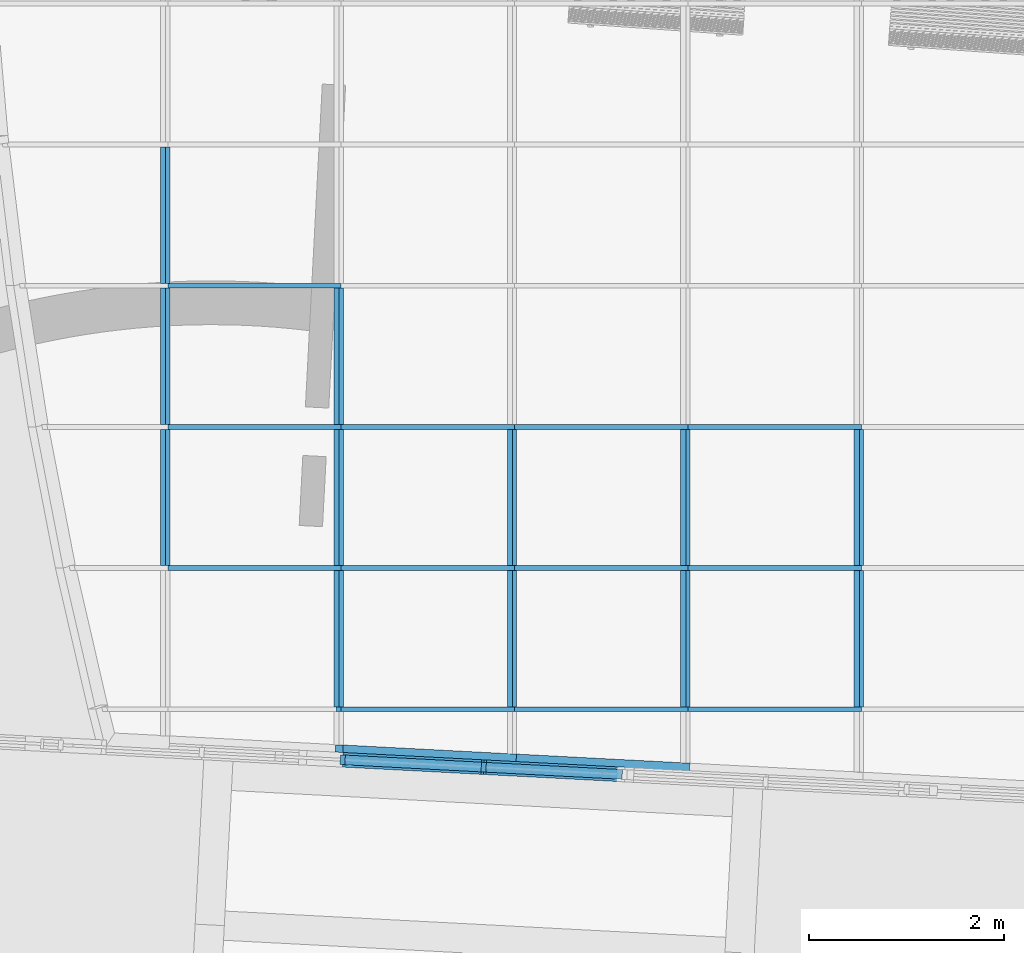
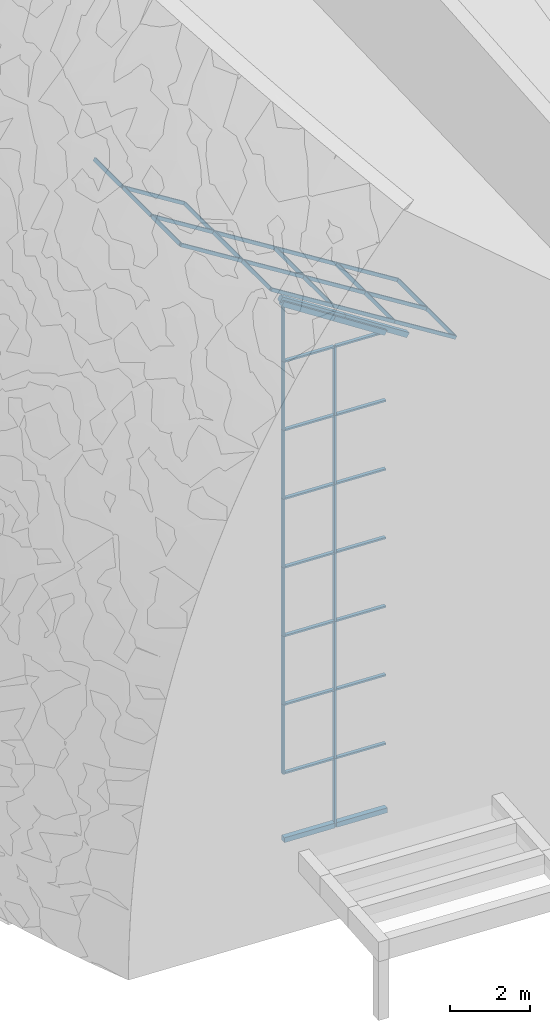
# One storey, part 6 of 82: 58 members, 1 element without a shape of its own.
"""IFC2X3 building model written with IfcOpenShell, lengths in millimetres."""

from ifc_helpers import new_model, entity, si_unit, converted_unit, derived_unit, direction, frame, frame_2d, origin, origin_2d_with_axis, place, context, subcontext, project, spatial, rectangle, extrude, clip, halfspace, source, transform, mapped, material, type_object, type_shapes, element, aggregate, save


model = new_model("IFC2X3")

# Units and contexts
model_context = context("Model", 3, precision=0.01, world=origin(), true_north=direction((6.12303176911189e-17, 1.0)))
body_context = subcontext(model_context, "Body", "Model", "MODEL_VIEW")
ifc_project = project(units=[si_unit("LENGTHUNIT", "METRE", prefix="MILLI"), si_unit("AREAUNIT", "SQUARE_METRE"), si_unit("VOLUMEUNIT", "CUBIC_METRE"), converted_unit("PLANEANGLEUNIT", "DEGREE", entity("IfcRatioMeasure", 0.0174532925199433), si_unit("PLANEANGLEUNIT", "RADIAN"), dimensions=[0, 0, 0, 0, 0, 0, 0]), si_unit("MASSUNIT", "GRAM", prefix="KILO"), derived_unit("MASSDENSITYUNIT", [(si_unit("MASSUNIT", "GRAM", prefix="KILO"), 1), (si_unit("LENGTHUNIT", "METRE"), -3)]), si_unit("TIMEUNIT", "SECOND"), si_unit("FREQUENCYUNIT", "HERTZ"), si_unit("THERMODYNAMICTEMPERATUREUNIT", "DEGREE_CELSIUS"), derived_unit("THERMALTRANSMITTANCEUNIT", [(si_unit("MASSUNIT", "GRAM", prefix="KILO"), 1), (si_unit("THERMODYNAMICTEMPERATUREUNIT", "KELVIN"), -1), (si_unit("TIMEUNIT", "SECOND"), -3)]), derived_unit("VOLUMETRICFLOWRATEUNIT", [(si_unit("LENGTHUNIT", "METRE"), 3), (si_unit("TIMEUNIT", "SECOND"), -1)]), si_unit("ELECTRICCURRENTUNIT", "AMPERE"), si_unit("ELECTRICVOLTAGEUNIT", "VOLT"), si_unit("POWERUNIT", "WATT"), si_unit("FORCEUNIT", "NEWTON", prefix="KILO"), si_unit("ILLUMINANCEUNIT", "LUX"), si_unit("LUMINOUSFLUXUNIT", "LUMEN"), si_unit("LUMINOUSINTENSITYUNIT", "CANDELA"), derived_unit("USERDEFINED", [(si_unit("MASSUNIT", "GRAM", prefix="KILO"), -1), (si_unit("LENGTHUNIT", "METRE"), -2), (si_unit("TIMEUNIT", "SECOND"), 3), (si_unit("LUMINOUSFLUXUNIT", "LUMEN"), 1)]), derived_unit("LINEARVELOCITYUNIT", [(si_unit("LENGTHUNIT", "METRE"), 1), (si_unit("TIMEUNIT", "SECOND"), -1)]), si_unit("PRESSUREUNIT", "PASCAL"), derived_unit("USERDEFINED", [(si_unit("LENGTHUNIT", "METRE"), -2), (si_unit("MASSUNIT", "GRAM", prefix="KILO"), 1), (si_unit("TIMEUNIT", "SECOND"), -2)])], contexts=[model_context])

# Site, building, storey
site_placement = place(None, origin())
site = spatial("IfcSite", under=ifc_project, at=site_placement, Name="表面", CompositionType="ELEMENT")
building_placement = place(site_placement, origin())
building = spatial("IfcBuilding", under=site, at=building_placement, CompositionType="ELEMENT")
storey_placement = place(building_placement, origin())
storey = spatial("IfcBuildingStorey", under=building, at=storey_placement, Name="1F", CompositionType="ELEMENT", Elevation=0.0)

# Curtain wall, members
curtain_wall_type = type_object("IfcCurtainWallType", Name="幕墙系统:1450 x 2100mm", PredefinedType="NOTDEFINED")
curtain_wall_placement = place(storey_placement, origin())
curtain_wall = element("IfcCurtainWall", 1, at=curtain_wall_placement, inside=storey, type_object=curtain_wall_type, Name="幕墙系统:1450 x 2100mm", ObjectType="幕墙系统:1450 x 2100mm")
ifc_material_1 = material(Name="金属 - 铝")
member_type_1 = type_object("IfcMemberType", Name="50 x 100mm", PredefinedType="MEMBER")
shared_shape_1 = source(origin(), body_context, "Body", "SweptSolid", [
    extrude(rectangle(XDim=100.0, YDim=50.0, at=origin_2d_with_axis()), frame((0.0, 0.0, -1400.0), z_axis=(0.0, 0.0, 1.0), x_axis=(0.0, -1.0, 0.0)), (0.0, 0.0, 1.0), 1400.0),
])
type_shapes(member_type_1, [shared_shape_1])
placement_1 = place(building_placement, frame((0.0, 0.0, 9000.0)))
member_1_placement = place(placement_1, frame((-21700.0006149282, -25013.9031535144, 4255.86225190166), z_axis=(0.0, 1.0, 0.0), x_axis=(-0.848048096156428, 0.0, 0.529919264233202)))
member_1 = element("IfcMember", 2, at=member_1_placement, type_object=member_type_1, material=ifc_material_1, Name="矩形竖梃:50 x 100mm", ObjectType="50 x 100mm", context=body_context, shape_type="MappedRepresentation", body=[
    mapped(shared_shape_1, transform((0.0, 0.0, 0.0), scale=1.0)),
])
member_2_placement = place(placement_1, frame((-21700.0006149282, -26463.9031535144, 4255.86225190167), z_axis=(0.0, 1.0, 0.0), x_axis=(-0.848048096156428, 0.0, 0.529919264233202)))
member_2 = element("IfcMember", 3, at=member_2_placement, type_object=member_type_1, material=ifc_material_1, Name="矩形竖梃:50 x 100mm", ObjectType="50 x 100mm", context=body_context, shape_type="MappedRepresentation", body=[
    mapped(shared_shape_1, transform((0.0, 0.0, 0.0), scale=1.0)),
])
member_3_placement = place(placement_1, frame((-23480.9016168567, -25013.9031535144, 5368.69270679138), z_axis=(0.0, 1.0, 0.0), x_axis=(-0.848048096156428, 0.0, 0.529919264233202)))
member_3 = element("IfcMember", 4, at=member_3_placement, type_object=member_type_1, material=ifc_material_1, Name="矩形竖梃:50 x 100mm", ObjectType="50 x 100mm", context=body_context, shape_type="MappedRepresentation", body=[
    mapped(shared_shape_1, transform((0.0, 0.0, 0.0), scale=1.0)),
])
member_4_placement = place(placement_1, frame((-23480.9016168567, -26463.9031535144, 5368.69270679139), z_axis=(0.0, 1.0, 0.0), x_axis=(-0.848048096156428, 0.0, 0.529919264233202)))
member_4 = element("IfcMember", 5, at=member_4_placement, type_object=member_type_1, material=ifc_material_1, Name="矩形竖梃:50 x 100mm", ObjectType="50 x 100mm", context=body_context, shape_type="MappedRepresentation", body=[
    mapped(shared_shape_1, transform((0.0, 0.0, 0.0), scale=1.0)),
])
member_5_placement = place(placement_1, frame((-25261.8026187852, -25013.9031535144, 6481.52316168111), z_axis=(0.0, 1.0, 0.0), x_axis=(-0.848048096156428, 0.0, 0.529919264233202)))
member_5 = element("IfcMember", 6, at=member_5_placement, type_object=member_type_1, material=ifc_material_1, Name="矩形竖梃:50 x 100mm", ObjectType="50 x 100mm", context=body_context, shape_type="MappedRepresentation", body=[
    mapped(shared_shape_1, transform((0.0, 0.0, 0.0), scale=1.0)),
])
member_6_placement = place(placement_1, frame((-25261.8026187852, -26463.9031535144, 6481.52316168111), z_axis=(0.0, 1.0, 0.0), x_axis=(-0.848048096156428, 0.0, 0.529919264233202)))
member_6 = element("IfcMember", 7, at=member_6_placement, type_object=member_type_1, material=ifc_material_1, Name="矩形竖梃:50 x 100mm", ObjectType="50 x 100mm", context=body_context, shape_type="MappedRepresentation", body=[
    mapped(shared_shape_1, transform((0.0, 0.0, 0.0), scale=1.0)),
])
member_7_placement = place(placement_1, frame((-27042.7036207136, -23563.9031535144, 7594.35361657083), z_axis=(0.0, 1.0, 0.0), x_axis=(-0.848048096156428, 0.0, 0.529919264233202)))
member_7 = element("IfcMember", 8, at=member_7_placement, type_object=member_type_1, material=ifc_material_1, Name="矩形竖梃:50 x 100mm", ObjectType="50 x 100mm", context=body_context, shape_type="MappedRepresentation", body=[
    mapped(shared_shape_1, transform((0.0, 0.0, 0.0), scale=1.0)),
])
member_8_placement = place(placement_1, frame((-27042.7036207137, -25013.9031535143, 7594.35361657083), z_axis=(0.0, 1.0, 0.0), x_axis=(-0.848048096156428, 0.0, 0.529919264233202)))
member_8 = element("IfcMember", 9, at=member_8_placement, type_object=member_type_1, material=ifc_material_1, Name="矩形竖梃:50 x 100mm", ObjectType="50 x 100mm", context=body_context, shape_type="MappedRepresentation", body=[
    mapped(shared_shape_1, transform((0.0, 0.0, 0.0), scale=1.0)),
])
member_9_placement = place(placement_1, frame((-27042.7036207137, -26463.9031535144, 7594.35361657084), z_axis=(0.0, 1.0, 0.0), x_axis=(-0.848048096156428, 0.0, 0.529919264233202)))
member_9 = element("IfcMember", 10, at=member_9_placement, type_object=member_type_1, material=ifc_material_1, Name="矩形竖梃:50 x 100mm", ObjectType="50 x 100mm", context=body_context, shape_type="MappedRepresentation", body=[
    mapped(shared_shape_1, transform((0.0, 0.0, 0.0), scale=1.0)),
])
member_10_placement = place(placement_1, frame((-28823.6046226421, -22113.9031535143, 8707.18407146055), z_axis=(0.0, 1.0, 0.0), x_axis=(-0.848048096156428, 0.0, 0.529919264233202)))
member_10 = element("IfcMember", 11, at=member_10_placement, type_object=member_type_1, material=ifc_material_1, Name="矩形竖梃:50 x 100mm", ObjectType="50 x 100mm", context=body_context, shape_type="MappedRepresentation", body=[
    mapped(shared_shape_1, transform((0.0, 0.0, 0.0), scale=1.0)),
])
member_11_placement = place(placement_1, frame((-28823.6046226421, -23563.9031535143, 8707.18407146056), z_axis=(0.0, 1.0, 0.0), x_axis=(-0.848048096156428, 0.0, 0.529919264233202)))
member_11 = element("IfcMember", 12, at=member_11_placement, type_object=member_type_1, material=ifc_material_1, Name="矩形竖梃:50 x 100mm", ObjectType="50 x 100mm", context=body_context, shape_type="MappedRepresentation", body=[
    mapped(shared_shape_1, transform((0.0, 0.0, 0.0), scale=1.0)),
])
member_12_placement = place(placement_1, frame((-28823.6046226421, -25013.9031535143, 8707.18407146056), z_axis=(0.0, 1.0, 0.0), x_axis=(-0.848048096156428, 0.0, 0.529919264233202)))
member_12 = element("IfcMember", 13, at=member_12_placement, type_object=member_type_1, material=ifc_material_1, Name="矩形竖梃:50 x 100mm", ObjectType="50 x 100mm", context=body_context, shape_type="MappedRepresentation", body=[
    mapped(shared_shape_1, transform((0.0, 0.0, 0.0), scale=1.0)),
])
member_13_placement = place(storey_placement, frame((-24129.6174691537, -28558.5461125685, 2100.0), z_axis=(0.998629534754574, -0.052335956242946, 0.0), x_axis=(0.0, 0.0, 1.0)))
member_13 = element("IfcMember", 14, at=member_13_placement, type_object=member_type_1, material=ifc_material_1, Name="矩形竖梃:50 x 100mm", ObjectType="50 x 100mm", context=body_context, shape_type="MappedRepresentation", body=[
    mapped(shared_shape_1, transform((0.0, 0.0, 0.0), scale=1.0)),
])
member_14_placement = place(storey_placement, frame((-25577.6302945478, -28482.6589760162, 2100.0), z_axis=(0.998629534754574, -0.0523359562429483, 0.0), x_axis=(0.0, 0.0, 1.0)))
member_14 = element("IfcMember", 15, at=member_14_placement, type_object=member_type_1, material=ifc_material_1, Name="矩形竖梃:50 x 100mm", ObjectType="50 x 100mm", context=body_context, shape_type="MappedRepresentation", body=[
    mapped(shared_shape_1, transform((0.0, 0.0, 0.0), scale=1.0)),
])
placement_2 = place(building_placement, frame((0.0, 0.0, 3000.0)))
member_15_placement = place(placement_2, frame((-24129.6174691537, -28558.5461125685, 1200.0), z_axis=(0.998629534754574, -0.052335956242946, 0.0), x_axis=(0.0, 0.0, 1.0)))
member_15 = element("IfcMember", 16, at=member_15_placement, type_object=member_type_1, material=ifc_material_1, Name="矩形竖梃:50 x 100mm", ObjectType="50 x 100mm", context=body_context, shape_type="MappedRepresentation", body=[
    mapped(shared_shape_1, transform((0.0, 0.0, 0.0), scale=1.0)),
])
member_16_placement = place(placement_2, frame((-25577.6302945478, -28482.6589760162, 1200.0), z_axis=(0.998629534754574, -0.0523359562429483, 0.0), x_axis=(0.0, 0.0, 1.0)))
member_16 = element("IfcMember", 17, at=member_16_placement, type_object=member_type_1, material=ifc_material_1, Name="矩形竖梃:50 x 100mm", ObjectType="50 x 100mm", context=body_context, shape_type="MappedRepresentation", body=[
    mapped(shared_shape_1, transform((0.0, 0.0, 0.0), scale=1.0)),
])
placement_3 = place(building_placement, frame((0.0, 0.0, 6000.0)))
member_17_placement = place(placement_3, frame((-24129.6174691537, -28558.5461125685, 300.0), z_axis=(0.998629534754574, -0.0523359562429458, 0.0), x_axis=(0.0, 0.0, 1.0)))
member_17 = element("IfcMember", 18, at=member_17_placement, type_object=member_type_1, material=ifc_material_1, Name="矩形竖梃:50 x 100mm", ObjectType="50 x 100mm", context=body_context, shape_type="MappedRepresentation", body=[
    mapped(shared_shape_1, transform((0.0, 0.0, 0.0), scale=1.0)),
])
member_18_placement = place(placement_3, frame((-25577.6302945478, -28482.6589760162, 300.0), z_axis=(0.998629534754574, -0.0523359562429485, 0.0), x_axis=(0.0, 0.0, 1.0)))
member_18 = element("IfcMember", 19, at=member_18_placement, type_object=member_type_1, material=ifc_material_1, Name="矩形竖梃:50 x 100mm", ObjectType="50 x 100mm", context=body_context, shape_type="MappedRepresentation", body=[
    mapped(shared_shape_1, transform((0.0, 0.0, 0.0), scale=1.0)),
])
member_19_placement = place(placement_3, frame((-24129.6174691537, -28558.5461125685, 2400.0), z_axis=(0.998629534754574, -0.0523359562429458, 0.0), x_axis=(0.0, 0.0, 1.0)))
member_19 = element("IfcMember", 20, at=member_19_placement, type_object=member_type_1, material=ifc_material_1, Name="矩形竖梃:50 x 100mm", ObjectType="50 x 100mm", context=body_context, shape_type="MappedRepresentation", body=[
    mapped(shared_shape_1, transform((0.0, 0.0, 0.0), scale=1.0)),
])
member_20_placement = place(placement_3, frame((-25577.6302945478, -28482.6589760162, 2400.0), z_axis=(0.998629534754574, -0.0523359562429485, 0.0), x_axis=(0.0, 0.0, 1.0)))
member_20 = element("IfcMember", 21, at=member_20_placement, type_object=member_type_1, material=ifc_material_1, Name="矩形竖梃:50 x 100mm", ObjectType="50 x 100mm", context=body_context, shape_type="MappedRepresentation", body=[
    mapped(shared_shape_1, transform((0.0, 0.0, 0.0), scale=1.0)),
])
member_21_placement = place(placement_1, frame((-24129.6174691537, -28558.5461125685, 1500.0), z_axis=(0.998629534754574, -0.0523359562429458, 0.0), x_axis=(0.0, 0.0, 1.0)))
member_21 = element("IfcMember", 22, at=member_21_placement, type_object=member_type_1, material=ifc_material_1, Name="矩形竖梃:50 x 100mm", ObjectType="50 x 100mm", context=body_context, shape_type="MappedRepresentation", body=[
    mapped(shared_shape_1, transform((0.0, 0.0, 0.0), scale=1.0)),
])
member_22_placement = place(placement_1, frame((-25577.6302945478, -28482.6589760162, 1500.0), z_axis=(0.998629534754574, -0.0523359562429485, 0.0), x_axis=(0.0, 0.0, 1.0)))
member_22 = element("IfcMember", 23, at=member_22_placement, type_object=member_type_1, material=ifc_material_1, Name="矩形竖梃:50 x 100mm", ObjectType="50 x 100mm", context=body_context, shape_type="MappedRepresentation", body=[
    mapped(shared_shape_1, transform((0.0, 0.0, 0.0), scale=1.0)),
])
member_23_placement = place(placement_1, frame((-24129.6174691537, -28558.5461125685, 3600.0), z_axis=(0.998629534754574, -0.0523359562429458, 0.0), x_axis=(0.0, 0.0, 1.0)))
member_23 = element("IfcMember", 24, at=member_23_placement, type_object=member_type_1, material=ifc_material_1, Name="矩形竖梃:50 x 100mm", ObjectType="50 x 100mm", context=body_context, shape_type="MappedRepresentation", body=[
    mapped(shared_shape_1, transform((0.0, 0.0, 0.0), scale=1.0)),
])
member_24_placement = place(placement_1, frame((-25577.6302945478, -28482.6589760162, 3600.0), z_axis=(0.998629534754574, -0.0523359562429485, 0.0), x_axis=(0.0, 0.0, 1.0)))
member_24 = element("IfcMember", 25, at=member_24_placement, type_object=member_type_1, material=ifc_material_1, Name="矩形竖梃:50 x 100mm", ObjectType="50 x 100mm", context=body_context, shape_type="MappedRepresentation", body=[
    mapped(shared_shape_1, transform((0.0, 0.0, 0.0), scale=1.0)),
])
member_25_placement = place(placement_1, frame((-24129.6174691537, -28558.5461125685, 5700.0), z_axis=(0.998629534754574, -0.0523359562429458, 0.0), x_axis=(0.0, 0.0, 1.0)))
member_25 = element("IfcMember", 26, at=member_25_placement, type_object=member_type_1, material=ifc_material_1, Name="矩形竖梃:50 x 100mm", ObjectType="50 x 100mm", context=body_context, shape_type="MappedRepresentation", body=[
    mapped(shared_shape_1, transform((0.0, 0.0, 0.0), scale=1.0)),
])
member_26_placement = place(placement_1, frame((-25577.6302945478, -28482.6589760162, 5700.0), z_axis=(0.998629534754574, -0.0523359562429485, 0.0), x_axis=(0.0, 0.0, 1.0)))
member_26 = element("IfcMember", 27, at=member_26_placement, type_object=member_type_1, material=ifc_material_1, Name="矩形竖梃:50 x 100mm", ObjectType="50 x 100mm", context=body_context, shape_type="MappedRepresentation", body=[
    mapped(shared_shape_1, transform((0.0, 0.0, 0.0), scale=1.0)),
])
member_type_2 = type_object("IfcMemberType", Name="50 x 100mm", PredefinedType="MEMBER")
shared_shape_2 = source(origin(), body_context, "Body", "SweptSolid", [
    extrude(rectangle(XDim=100.0, YDim=50.0, at=origin_2d_with_axis()), frame((0.0, 0.0, -2100.0), z_axis=(0.0, 0.0, 1.0), x_axis=(0.0, -1.0, 0.0)), (0.0, 0.0, 1.0), 2100.0),
])
type_shapes(member_type_2, [shared_shape_2])
member_27_placement = place(storey_placement, frame((-25552.6645561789, -28483.9673749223, 2100.0), z_axis=(0.0, 0.0, 1.0), x_axis=(-0.998629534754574, 0.0523359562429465, 0.0)))
member_27 = element("IfcMember", 28, at=member_27_placement, type_object=member_type_2, material=ifc_material_1, Name="矩形竖梃:50 x 100mm", ObjectType="50 x 100mm", context=body_context, shape_type="MappedRepresentation", body=[
    mapped(shared_shape_2, transform((0.0, 0.0, 0.0), scale=1.0)),
])
member_type_3 = type_object("IfcMemberType", Name="50 x 100mm", PredefinedType="MEMBER")
shared_shape_3 = source(origin(), body_context, "Body", "SweptSolid", [
    extrude(rectangle(XDim=100.0, YDim=50.0, at=origin_2d_with_axis()), frame((0.0, 0.0, -2100.0), z_axis=(0.0, 0.0, 1.0), x_axis=(0.0, -1.0, 0.0)), (0.0, 0.0, 1.0), 2100.0),
])
type_shapes(member_type_3, [shared_shape_3])
member_28_placement = place(placement_1, frame((-23480.9016168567, -24988.9031535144, 5368.69270679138), z_axis=(-0.848048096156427, 0.0, 0.529919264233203), x_axis=(0.0, -1.0, 0.0)))
member_28 = element("IfcMember", 29, at=member_28_placement, type_object=member_type_3, material=ifc_material_1, Name="矩形竖梃:50 x 100mm", ObjectType="50 x 100mm", context=body_context, shape_type="MappedRepresentation", body=[
    mapped(shared_shape_3, transform((0.0, 0.0, 0.0), scale=1.0)),
])
member_29_placement = place(placement_1, frame((-23480.9016168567, -26438.9031535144, 5368.69270679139), z_axis=(-0.848048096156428, 0.0, 0.529919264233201), x_axis=(0.0, -1.0, 0.0)))
member_29 = element("IfcMember", 30, at=member_29_placement, type_object=member_type_3, material=ifc_material_1, Name="矩形竖梃:50 x 100mm", ObjectType="50 x 100mm", context=body_context, shape_type="MappedRepresentation", body=[
    mapped(shared_shape_3, transform((0.0, 0.0, 0.0), scale=1.0)),
])
member_30_placement = place(placement_1, frame((-23480.9016168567, -27888.9031535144, 5368.69270679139), z_axis=(-0.848048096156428, 0.0, 0.529919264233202), x_axis=(0.0, -1.0, 0.0)))
member_30 = element("IfcMember", 31, at=member_30_placement, type_object=member_type_3, material=ifc_material_1, Name="矩形竖梃:50 x 100mm", ObjectType="50 x 100mm", context=body_context, shape_type="MappedRepresentation", body=[
    mapped(shared_shape_3, transform((0.0, 0.0, 0.0), scale=1.0)),
])
member_31_placement = place(placement_1, frame((-25261.8026187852, -24988.9031535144, 6481.52316168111), z_axis=(-0.848048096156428, 0.0, 0.529919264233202), x_axis=(0.0, -1.0, 0.0)))
member_31 = element("IfcMember", 32, at=member_31_placement, type_object=member_type_3, material=ifc_material_1, Name="矩形竖梃:50 x 100mm", ObjectType="50 x 100mm", context=body_context, shape_type="MappedRepresentation", body=[
    mapped(shared_shape_3, transform((0.0, 0.0, 0.0), scale=1.0)),
])
member_32_placement = place(placement_1, frame((-25261.8026187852, -26438.9031535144, 6481.52316168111), z_axis=(-0.848048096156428, 0.0, 0.529919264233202), x_axis=(0.0, -1.0, 0.0)))
member_32 = element("IfcMember", 33, at=member_32_placement, type_object=member_type_3, material=ifc_material_1, Name="矩形竖梃:50 x 100mm", ObjectType="50 x 100mm", context=body_context, shape_type="MappedRepresentation", body=[
    mapped(shared_shape_3, transform((0.0, 0.0, 0.0), scale=1.0)),
])
member_33_placement = place(placement_1, frame((-25261.8026187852, -27888.9031535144, 6481.52316168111), z_axis=(-0.848048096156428, 0.0, 0.529919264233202), x_axis=(0.0, -1.0, 0.0)))
member_33 = element("IfcMember", 34, at=member_33_placement, type_object=member_type_3, material=ifc_material_1, Name="矩形竖梃:50 x 100mm", ObjectType="50 x 100mm", context=body_context, shape_type="MappedRepresentation", body=[
    mapped(shared_shape_3, transform((0.0, 0.0, 0.0), scale=1.0)),
])
member_34_placement = place(placement_1, frame((-27042.7036207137, -24988.9031535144, 7594.35361657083), z_axis=(-0.848048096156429, 0.0, 0.529919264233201), x_axis=(0.0, -1.0, 0.0)))
member_34 = element("IfcMember", 35, at=member_34_placement, type_object=member_type_3, material=ifc_material_1, Name="矩形竖梃:50 x 100mm", ObjectType="50 x 100mm", context=body_context, shape_type="MappedRepresentation", body=[
    mapped(shared_shape_3, transform((0.0, 0.0, 0.0), scale=1.0)),
])
member_35_placement = place(placement_1, frame((-27042.7036207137, -26438.9031535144, 7594.35361657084), z_axis=(-0.848048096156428, 0.0, 0.529919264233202), x_axis=(0.0, -1.0, 0.0)))
member_35 = element("IfcMember", 36, at=member_35_placement, type_object=member_type_3, material=ifc_material_1, Name="矩形竖梃:50 x 100mm", ObjectType="50 x 100mm", context=body_context, shape_type="MappedRepresentation", body=[
    mapped(shared_shape_3, transform((0.0, 0.0, 0.0), scale=1.0)),
])
member_36_placement = place(placement_1, frame((-27042.7036207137, -27888.9031535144, 7594.35361657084), z_axis=(-0.848048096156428, 0.0, 0.529919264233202), x_axis=(0.0, -1.0, 0.0)))
member_36 = element("IfcMember", 37, at=member_36_placement, type_object=member_type_3, material=ifc_material_1, Name="矩形竖梃:50 x 100mm", ObjectType="50 x 100mm", context=body_context, shape_type="MappedRepresentation", body=[
    mapped(shared_shape_3, transform((0.0, 0.0, 0.0), scale=1.0)),
])
member_37_placement = place(placement_1, frame((-28823.6046226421, -23538.9031535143, 8707.18407146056), z_axis=(-0.848048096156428, 0.0, 0.529919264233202), x_axis=(0.0, -1.0, 0.0)))
member_37 = element("IfcMember", 38, at=member_37_placement, type_object=member_type_3, material=ifc_material_1, Name="矩形竖梃:50 x 100mm", ObjectType="50 x 100mm", context=body_context, shape_type="MappedRepresentation", body=[
    mapped(shared_shape_3, transform((0.0, 0.0, 0.0), scale=1.0)),
])
member_38_placement = place(placement_1, frame((-28823.6046226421, -24988.9031535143, 8707.18407146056), z_axis=(-0.848048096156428, 0.0, 0.529919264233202), x_axis=(0.0, -1.0, 0.0)))
member_38 = element("IfcMember", 39, at=member_38_placement, type_object=member_type_3, material=ifc_material_1, Name="矩形竖梃:50 x 100mm", ObjectType="50 x 100mm", context=body_context, shape_type="MappedRepresentation", body=[
    mapped(shared_shape_3, transform((0.0, 0.0, 0.0), scale=1.0)),
])
member_39_placement = place(placement_1, frame((-28823.6046226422, -26438.9031535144, 8707.18407146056), z_axis=(-0.848048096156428, 0.0, 0.529919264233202), x_axis=(0.0, -1.0, 0.0)))
member_39 = element("IfcMember", 40, at=member_39_placement, type_object=member_type_3, material=ifc_material_1, Name="矩形竖梃:50 x 100mm", ObjectType="50 x 100mm", context=body_context, shape_type="MappedRepresentation", body=[
    mapped(shared_shape_3, transform((0.0, 0.0, 0.0), scale=1.0)),
])
member_40_placement = place(storey_placement, frame((-25552.6645561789, -28483.9673749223, 4200.0), z_axis=(0.0, 0.0, 1.0), x_axis=(-0.998629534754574, 0.0523359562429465, 0.0)))
member_40 = element("IfcMember", 41, at=member_40_placement, type_object=member_type_3, material=ifc_material_1, Name="矩形竖梃:50 x 100mm", ObjectType="50 x 100mm", context=body_context, shape_type="MappedRepresentation", body=[
    mapped(shared_shape_3, transform((0.0, 0.0, 0.0), scale=1.0)),
])
member_41_placement = place(placement_2, frame((-25552.6645561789, -28483.9673749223, 3300.0), z_axis=(0.0, 0.0, 1.0), x_axis=(-0.998629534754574, 0.0523359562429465, 0.0)))
member_41 = element("IfcMember", 42, at=member_41_placement, type_object=member_type_3, material=ifc_material_1, Name="矩形竖梃:50 x 100mm", ObjectType="50 x 100mm", context=body_context, shape_type="MappedRepresentation", body=[
    mapped(shared_shape_3, transform((0.0, 0.0, 0.0), scale=1.0)),
])
member_42_placement = place(placement_2, frame((-27000.6773815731, -28408.08023837, 3300.0), z_axis=(0.0, 0.0, 1.0), x_axis=(-0.998629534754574, 0.0523359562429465, 0.0)))
member_42 = element("IfcMember", 43, at=member_42_placement, type_object=member_type_3, material=ifc_material_1, Name="矩形竖梃:50 x 100mm", ObjectType="50 x 100mm", context=body_context, shape_type="MappedRepresentation", body=[
    mapped(shared_shape_3, transform((0.0, 0.0, 0.0), scale=1.0)),
])
member_43_placement = place(placement_3, frame((-25552.6645561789, -28483.9673749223, 2400.0), z_axis=(0.0, 0.0, 1.0), x_axis=(-0.998629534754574, 0.0523359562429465, 0.0)))
member_43 = element("IfcMember", 44, at=member_43_placement, type_object=member_type_3, material=ifc_material_1, Name="矩形竖梃:50 x 100mm", ObjectType="50 x 100mm", context=body_context, shape_type="MappedRepresentation", body=[
    mapped(shared_shape_3, transform((0.0, 0.0, 0.0), scale=1.0)),
])
member_44_placement = place(placement_3, frame((-27000.6773815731, -28408.08023837, 2400.0), z_axis=(0.0, 0.0, 1.0), x_axis=(-0.998629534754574, 0.0523359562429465, 0.0)))
member_44 = element("IfcMember", 45, at=member_44_placement, type_object=member_type_3, material=ifc_material_1, Name="矩形竖梃:50 x 100mm", ObjectType="50 x 100mm", context=body_context, shape_type="MappedRepresentation", body=[
    mapped(shared_shape_3, transform((0.0, 0.0, 0.0), scale=1.0)),
])
member_45_placement = place(placement_3, frame((-25552.6645561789, -28483.9673749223, 4500.0), z_axis=(0.0, 0.0, 1.0), x_axis=(-0.998629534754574, 0.0523359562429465, 0.0)))
member_45 = element("IfcMember", 46, at=member_45_placement, type_object=member_type_3, material=ifc_material_1, Name="矩形竖梃:50 x 100mm", ObjectType="50 x 100mm", context=body_context, shape_type="MappedRepresentation", body=[
    mapped(shared_shape_3, transform((0.0, 0.0, 0.0), scale=1.0)),
])
member_46_placement = place(placement_3, frame((-27000.6773815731, -28408.08023837, 4500.0), z_axis=(0.0, 0.0, 1.0), x_axis=(-0.998629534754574, 0.0523359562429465, 0.0)))
member_46 = element("IfcMember", 47, at=member_46_placement, type_object=member_type_3, material=ifc_material_1, Name="矩形竖梃:50 x 100mm", ObjectType="50 x 100mm", context=body_context, shape_type="MappedRepresentation", body=[
    mapped(shared_shape_3, transform((0.0, 0.0, 0.0), scale=1.0)),
])
member_47_placement = place(placement_1, frame((-25552.6645561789, -28483.9673749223, 3600.0), z_axis=(0.0, 0.0, 1.0), x_axis=(-0.998629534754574, 0.0523359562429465, 0.0)))
member_47 = element("IfcMember", 48, at=member_47_placement, type_object=member_type_3, material=ifc_material_1, Name="矩形竖梃:50 x 100mm", ObjectType="50 x 100mm", context=body_context, shape_type="MappedRepresentation", body=[
    mapped(shared_shape_3, transform((0.0, 0.0, 0.0), scale=1.0)),
])
member_48_placement = place(placement_1, frame((-27000.6773815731, -28408.08023837, 3600.0), z_axis=(0.0, 0.0, 1.0), x_axis=(-0.998629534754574, 0.0523359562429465, 0.0)))
member_48 = element("IfcMember", 49, at=member_48_placement, type_object=member_type_3, material=ifc_material_1, Name="矩形竖梃:50 x 100mm", ObjectType="50 x 100mm", context=body_context, shape_type="MappedRepresentation", body=[
    mapped(shared_shape_3, transform((0.0, 0.0, 0.0), scale=1.0)),
])
member_49_placement = place(placement_1, frame((-25552.6645561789, -28483.9673749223, 5700.0), z_axis=(0.0, 0.0, 1.0), x_axis=(-0.998629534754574, 0.0523359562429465, 0.0)))
member_49 = element("IfcMember", 50, at=member_49_placement, type_object=member_type_3, material=ifc_material_1, Name="矩形竖梃:50 x 100mm", ObjectType="50 x 100mm", context=body_context, shape_type="MappedRepresentation", body=[
    mapped(shared_shape_3, transform((0.0, 0.0, 0.0), scale=1.0)),
])
member_50_placement = place(placement_1, frame((-27000.6773815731, -28408.08023837, 5700.0), z_axis=(0.0, 0.0, 1.0), x_axis=(-0.998629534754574, 0.0523359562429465, 0.0)))
member_50 = element("IfcMember", 51, at=member_50_placement, type_object=member_type_3, material=ifc_material_1, Name="矩形竖梃:50 x 100mm", ObjectType="50 x 100mm", context=body_context, shape_type="MappedRepresentation", body=[
    mapped(shared_shape_3, transform((0.0, 0.0, 0.0), scale=1.0)),
])
ifc_material_2 = material(Name="木质 - 木材")
member_type_4 = type_object("IfcMemberType", Name="200 x 150mm", PredefinedType="MEMBER")
shared_shape_4 = source(origin(), body_context, "Body", "SweptSolid", [
    extrude(rectangle(XDim=150.0, YDim=150.0, at=origin_2d_with_axis()), frame((-75.0, 0.0, -1425.0), z_axis=(0.0, 0.0, 1.0), x_axis=(0.0, -1.0, 0.0)), (0.0, 0.0, 1.0), 1425.0),
])
type_shapes(member_type_4, [shared_shape_4])
member_51_placement = place(storey_placement, frame((-25527.6988178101, -28485.2757738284, 0.0), z_axis=(-0.998629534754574, 0.052335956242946, 0.0), x_axis=(0.0, 0.0, -1.0)))
member_51 = element("IfcMember", 52, at=member_51_placement, type_object=member_type_4, material=ifc_material_2, Name="矩形竖梃:200 x 150mm", ObjectType="200 x 150mm", context=body_context, shape_type="MappedRepresentation", body=[
    mapped(shared_shape_4, transform((0.0, 0.0, 0.0), scale=1.0)),
])
member_type_5 = type_object("IfcMemberType", Name="50 x 100mm", PredefinedType="MEMBER")
shared_shape_5 = source(origin(), body_context, "Body", "SweptSolid", [
    extrude(rectangle(XDim=100.0, YDim=50.0, at=origin_2d_with_axis()), frame((0.0, 0.0, -2125.0), z_axis=(0.0, 0.0, 1.0), x_axis=(0.0, -1.0, 0.0)), (0.0, 0.0, 1.0), 2124.99999999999),
])
type_shapes(member_type_5, [shared_shape_5])
member_52_placement = place(storey_placement, frame((-27000.6773815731, -28408.08023837, 4200.0), z_axis=(0.0, 0.0, 1.0), x_axis=(-0.998629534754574, 0.0523359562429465, 0.0)))
member_52 = element("IfcMember", 53, at=member_52_placement, type_object=member_type_5, material=ifc_material_1, Name="矩形竖梃:50 x 100mm", ObjectType="50 x 100mm", context=body_context, shape_type="MappedRepresentation", body=[
    mapped(shared_shape_5, transform((0.0, 0.0, 0.0), scale=1.0)),
])
member_type_6 = type_object("IfcMemberType", Name="200 x 150mm", PredefinedType="MEMBER")
shared_shape_6 = source(origin(), body_context, "Body", "SweptSolid", [
    extrude(rectangle(XDim=150.0, YDim=150.0, at=origin_2d_with_axis()), frame((-75.0, 0.0, -1425.0), z_axis=(0.0, 0.0, 1.0), x_axis=(0.0, -1.0, 0.0)), (0.0, 0.0, 1.0), 1425.0),
])
type_shapes(member_type_6, [shared_shape_6])
member_53_placement = place(storey_placement, frame((-27000.6773815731, -28408.08023837, 0.0), z_axis=(-0.998629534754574, 0.0523359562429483, 0.0), x_axis=(0.0, 0.0, -1.0)))
member_53 = element("IfcMember", 54, at=member_53_placement, type_object=member_type_6, material=ifc_material_2, Name="矩形竖梃:200 x 150mm", ObjectType="200 x 150mm", context=body_context, shape_type="MappedRepresentation", body=[
    mapped(shared_shape_6, transform((0.0, 0.0, 0.0), scale=1.0)),
])
member_type_7 = type_object("IfcMemberType", Name="200 x 150mm", PredefinedType="MEMBER")
shared_shape_7 = source(origin(), body_context, "Body", "SweptSolid", [
    extrude(rectangle(XDim=150.0, YDim=150.0, at=origin_2d_with_axis()), frame((-75.0, 0.0, -2102.0730390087), z_axis=(0.0, 0.0, 1.0), x_axis=(0.0, -1.0, 0.0)), (0.0, 0.0, 1.0), 2102.07303900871),
])
type_shapes(member_type_7, [shared_shape_7])
member_54_placement = place(placement_1, frame((-25261.8026187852, -28499.2108031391, 6481.52316168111), z_axis=(-0.847211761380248, 0.0444004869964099, 0.529396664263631), x_axis=(-0.037653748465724, -0.999013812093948, 0.0235286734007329)))
member_54 = element("IfcMember", 55, at=member_54_placement, type_object=member_type_7, material=ifc_material_2, Name="矩形竖梃:200 x 150mm", ObjectType="200 x 150mm", context=body_context, shape_type="MappedRepresentation", body=[
    mapped(shared_shape_7, transform((0.0, 0.0, 0.0), scale=1.0)),
])
member_55_placement = place(placement_1, frame((-27042.7036207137, -28405.877736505, 7594.35361657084), z_axis=(-0.847211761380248, 0.0444004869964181, 0.52939666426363), x_axis=(-0.0376537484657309, -0.999013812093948, 0.0235286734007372)))
member_55 = element("IfcMember", 56, at=member_55_placement, type_object=member_type_7, material=ifc_material_2, Name="矩形竖梃:200 x 150mm", ObjectType="200 x 150mm", context=body_context, shape_type="MappedRepresentation", body=[
    mapped(shared_shape_7, transform((0.0, 0.0, 0.0), scale=1.0)),
])
member_type_8 = type_object("IfcMemberType", Name="200 x 150mm", PredefinedType="MEMBER")
shared_shape_8 = source(origin(), body_context, "Body", "SweptSolid", [
    extrude(rectangle(XDim=150.0, YDim=150.0, at=origin_2d_with_axis()), frame((-75.0, 0.0, -1709.1509955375), z_axis=(0.0, 0.0, 1.0), x_axis=(0.0, -1.0, 0.0)), (0.0, 0.0, 1.0), 1709.1509955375),
])
type_shapes(member_type_8, [shared_shape_8])
member_56_placement = place(placement_1, frame((-24104.6517307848, -28559.8545114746, 5758.45503623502), z_axis=(0.847211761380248, -0.0444004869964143, -0.529396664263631), x_axis=(0.528671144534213, -0.0277064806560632, 0.84837442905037)))
member_56 = element("IfcMember", 57, at=member_56_placement, type_object=member_type_8, material=ifc_material_2, Name="矩形竖梃:200 x 150mm", ObjectType="200 x 150mm", context=body_context, shape_type="MappedRepresentation", body=[
    mapped(shared_shape_8, transform((0.0, 0.0, 0.0), scale=1.0)),
])
member_type_9 = type_object("IfcMemberType", Name="200 x 150mm", PredefinedType="MEMBER")
shared_shape_9 = source(origin(), body_context, "Body", "SweptSolid", [
    extrude(rectangle(XDim=150.0, YDim=150.0, at=frame_2d((2.1316282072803e-14, -9.9475983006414e-14), x_axis=(1.0, 0.0))), frame((-75.0, 0.0, -1709.15099553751), z_axis=(0.0, 0.0, 1.0), x_axis=(0.0, -1.0, 0.0)), (0.0, 0.0, 1.0), 1709.15099553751),
])
type_shapes(member_type_9, [shared_shape_9])
member_57_placement = place(placement_1, frame((-25552.6645561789, -28483.9673749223, 6663.27387199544), z_axis=(0.847211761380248, -0.0444004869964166, -0.52939666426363), x_axis=(0.528671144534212, -0.0277064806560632, 0.84837442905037)))
member_57 = element("IfcMember", 58, at=member_57_placement, type_object=member_type_9, material=ifc_material_2, Name="矩形竖梃:200 x 150mm", ObjectType="200 x 150mm", context=body_context, shape_type="MappedRepresentation", body=[
    mapped(shared_shape_9, transform((0.0, 0.0, 0.0), scale=1.0)),
])
member_type_10 = type_object("IfcMemberType", Name="50 x 100mm", PredefinedType="MEMBER")
shared_shape_10 = source(origin(), body_context, "Body", "Clipping", [
    clip(extrude(rectangle(XDim=100.0, YDim=50.0, at=origin_2d_with_axis()), frame((0.0, 0.0, -1868.092707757), z_axis=(0.0, 0.0, 1.0), x_axis=(0.0, -1.0, 0.0)), (0.0, 0.0, 1.0), 1706.8843088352), halfspace(frame((-1370.59050036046, 75.0, -1032.07500011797), z_axis=(-0.52939666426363, 0.0, 0.84837442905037), x_axis=(0.84837442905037, 0.0, 0.52939666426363)), False)),
])
type_shapes(member_type_10, [shared_shape_10])
member_58_placement = place(placement_1, frame((-27000.6773815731, -28408.08023837, 7568.09270775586), z_axis=(0.0, 0.0, 1.0), x_axis=(-0.998629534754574, 0.0523359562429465, 0.0)))
member_58 = element("IfcMember", 59, at=member_58_placement, type_object=member_type_10, material=ifc_material_1, Name="矩形竖梃:50 x 100mm", ObjectType="50 x 100mm", context=body_context, shape_type="MappedRepresentation", body=[
    mapped(shared_shape_10, transform((0.0, 0.0, 0.0), scale=1.0)),
])
aggregate(curtain_wall, [member_54, member_55, member_1, member_2, member_3, member_4, member_5, member_6, member_7, member_8, member_9, member_10, member_11, member_12, member_28, member_29, member_30, member_31, member_32, member_33, member_34, member_35, member_36, member_37, member_38, member_39, member_51, member_53, member_56, member_57, member_13, member_14, member_15, member_16, member_17, member_18, member_19, member_20, member_21, member_22, member_23, member_24, member_25, member_26, member_58, member_27, member_40, member_52, member_41, member_42, member_43, member_44, member_45, member_46, member_47, member_48, member_49, member_50])

save(model, "model.ifc")
